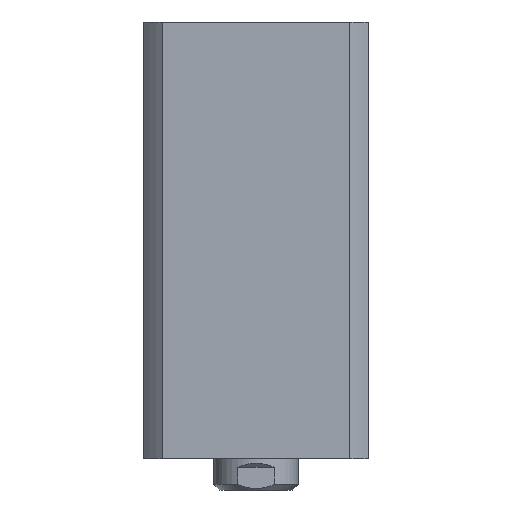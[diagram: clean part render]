
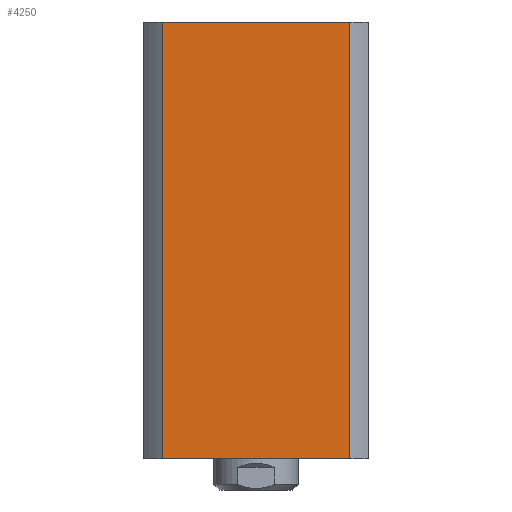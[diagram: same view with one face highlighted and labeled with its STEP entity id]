
A CAD part, left-side view. The second image highlights one B-rep face of the part: STEP entity #4250.
In plain terms, the highlighted planar face has unit normal (-1, 0, 0).
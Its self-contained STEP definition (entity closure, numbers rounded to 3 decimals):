
#307 = DIRECTION ( 'NONE',  ( 1., 0., 0. ) ) ;
#574 = LINE ( 'NONE', #10387, #6464 ) ;
#678 = CARTESIAN_POINT ( 'NONE',  ( -40., 33.226, 77.5 ) ) ;
#1247 = VERTEX_POINT ( 'NONE', #10791 ) ;
#1324 = EDGE_LOOP ( 'NONE', ( #13698, #13295, #12793, #11565 ) ) ;
#1531 = FACE_OUTER_BOUND ( 'NONE', #1324, .T. ) ;
#1722 = VECTOR ( 'NONE', #9614, 1000. ) ;
#1817 = DIRECTION ( 'NONE',  ( 0., -1., 0. ) ) ;
#2043 = CARTESIAN_POINT ( 'NONE',  ( -40., 33.226, -77.5 ) ) ;
#2242 = VECTOR ( 'NONE', #4582, 1000. ) ;
#3364 = DIRECTION ( 'NONE',  ( 0., 1., 0. ) ) ;
#3436 = VERTEX_POINT ( 'NONE', #11837 ) ;
#3475 = PLANE ( 'NONE',  #9405 ) ;
#3786 = VERTEX_POINT ( 'NONE', #13614 ) ;
#4250 = ADVANCED_FACE ( 'NONE', ( #1531 ), #3475, .F. ) ;
#4561 = CARTESIAN_POINT ( 'NONE',  ( -40., 33.226, 77.5 ) ) ;
#4582 = DIRECTION ( 'NONE',  ( 0., 0., -1. ) ) ;
#4601 = LINE ( 'NONE', #2043, #1722 ) ;
#4894 = DIRECTION ( 'NONE',  ( 0., 0., -1. ) ) ;
#5272 = LINE ( 'NONE', #678, #6457 ) ;
#5855 = CARTESIAN_POINT ( 'NONE',  ( -40., -33.226, -77.5 ) ) ;
#6457 = VECTOR ( 'NONE', #1817, 1000. ) ;
#6464 = VECTOR ( 'NONE', #4894, 1000. ) ;
#7356 = EDGE_CURVE ( 'NONE', #1247, #12715, #574, .T. ) ;
#8265 = EDGE_CURVE ( 'NONE', #3786, #3436, #13593, .T. ) ;
#8898 = CARTESIAN_POINT ( 'NONE',  ( -40., 33.226, 77.5 ) ) ;
#9405 = AXIS2_PLACEMENT_3D ( 'NONE', #4561, #307, #3364 ) ;
#9614 = DIRECTION ( 'NONE',  ( 0., -1., 0. ) ) ;
#10358 = EDGE_CURVE ( 'NONE', #3436, #12715, #4601, .T. ) ;
#10387 = CARTESIAN_POINT ( 'NONE',  ( -40., -33.226, 77.5 ) ) ;
#10791 = CARTESIAN_POINT ( 'NONE',  ( -40., -33.226, 77.5 ) ) ;
#10806 = EDGE_CURVE ( 'NONE', #3786, #1247, #5272, .T. ) ;
#11565 = ORIENTED_EDGE ( 'NONE', *, *, #8265, .T. ) ;
#11837 = CARTESIAN_POINT ( 'NONE',  ( -40., 33.226, -77.5 ) ) ;
#12715 = VERTEX_POINT ( 'NONE', #5855 ) ;
#12793 = ORIENTED_EDGE ( 'NONE', *, *, #10806, .F. ) ;
#13295 = ORIENTED_EDGE ( 'NONE', *, *, #7356, .F. ) ;
#13593 = LINE ( 'NONE', #8898, #2242 ) ;
#13614 = CARTESIAN_POINT ( 'NONE',  ( -40., 33.226, 77.5 ) ) ;
#13698 = ORIENTED_EDGE ( 'NONE', *, *, #10358, .T. ) ;
